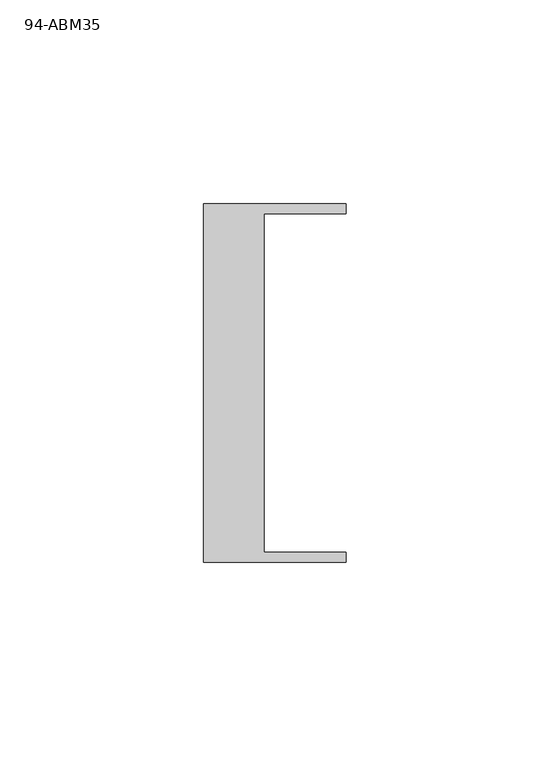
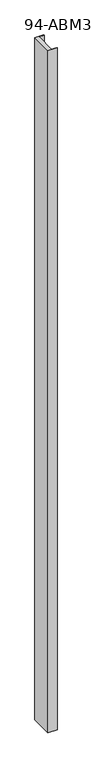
"""IFC4 building model written with IfcOpenShell, lengths in millimetres: plate geometry, END_FILLER-ABM_U-MUR-M : 94-ABM35."""

from ifc_helpers import new_model, si_unit, origin, origin_with_axes, place, context, project, spatial, polyline, outline, extrude, source, transform, mapped, element, save


def plate_94_abm35_0e953f24(model_context):
    return source(origin(), model_context, "Body", "SweptSolid", [
        extrude(outline(polyline([(27.55, -44.0), (-7.45, -44.0), (-7.45, 44.0), (27.55, 44.0), (27.55, 41.5), (7.45, 41.5), (7.45, -41.5), (27.55, -41.5), (27.55, -44.0)])), origin_with_axes(), (0.0, 0.0, 1.0), 2800.0),
    ])


if __name__ == "__main__":
    model = new_model("IFC4")
    model_context = context("Model", 3, world=origin())
    ifc_project = project(units=[si_unit("LENGTHUNIT", "METRE", prefix="MILLI")], contexts=[model_context])
    site = spatial("IfcSite", under=ifc_project)
    building = spatial("IfcBuilding", under=site)
    placement = place(None, origin())
    plate_94_abm35_shape = plate_94_abm35_0e953f24(model_context)
    element("IfcPlate", 1, ObjectType="END_FILLER-ABM_U-MUR-M : 94-ABM35", at=placement, inside=building, context=model_context, shape_type="MappedRepresentation", body=[
        mapped(plate_94_abm35_shape, transform((0.0, 0.0, 0.0), x_axis=(1.0, 0.0, 0.0), y_axis=(0.0, 1.0, 0.0), z_axis=(0.0, 0.0, 1.0))),
    ])
    save(model, "model.ifc")
